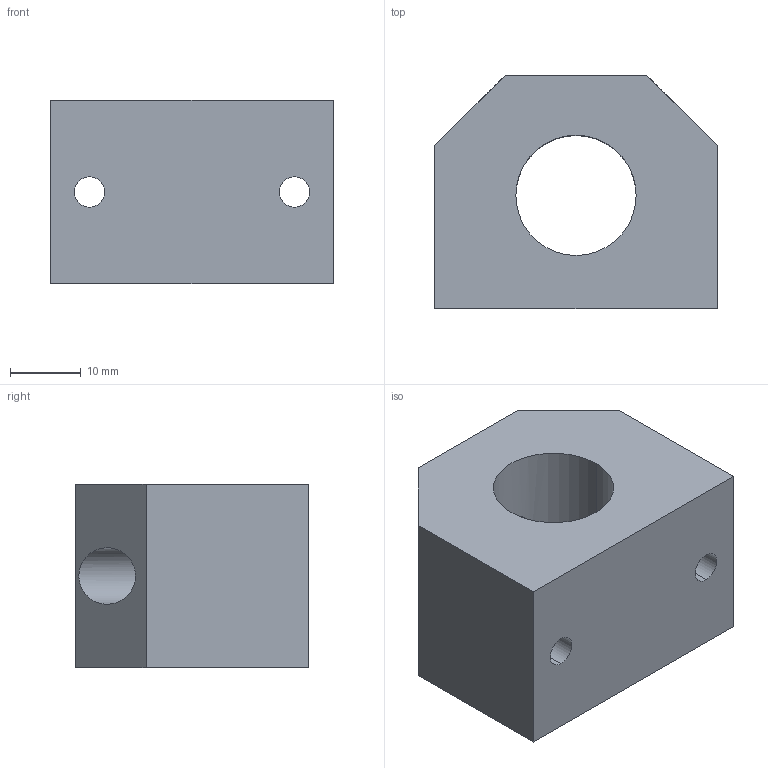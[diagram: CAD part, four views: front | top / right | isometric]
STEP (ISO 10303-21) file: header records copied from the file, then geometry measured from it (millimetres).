
FILE_DESCRIPTION (( 'STEP AP214' ), '1' );
FILE_NAME ('KGC27-10.step', '2020-03-04T13:05:46', ( '' ), ( '' ), 'SwSTEP 2.0', 'SolidWorks 2019', '' );
FILE_SCHEMA (( 'AUTOMOTIVE_DESIGN' ));
Length unit declared in the file: millimetre
Products named in the file (1): KGC27-10
Bounding box: 40 x 33 x 26 mm (x, y, z)
Volume: 23762.8 mm3; surface area: 7944.1 mm2
Topology: 1 solids, 1 shells, 22 faces, 54 edges, 36 vertices
Faces by surface type: cylinder 12, plane 10
Entity records: 834 total; most frequent: CARTESIAN_POINT 191, DIRECTION 112, ORIENTED_EDGE 108, EDGE_CURVE 54, AXIS2_PLACEMENT_3D 41, VERTEX_POINT 36, EDGE_LOOP 32, VECTOR 30
